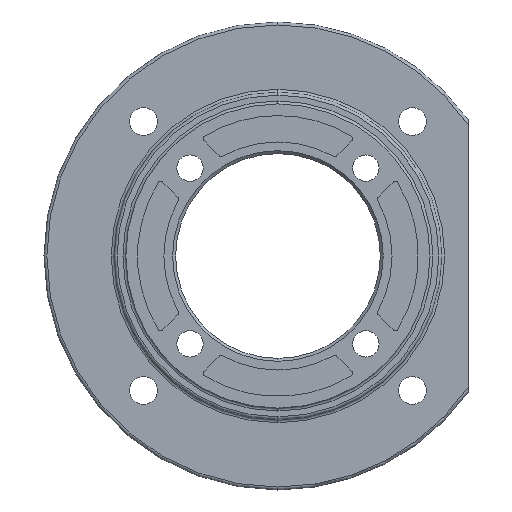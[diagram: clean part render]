
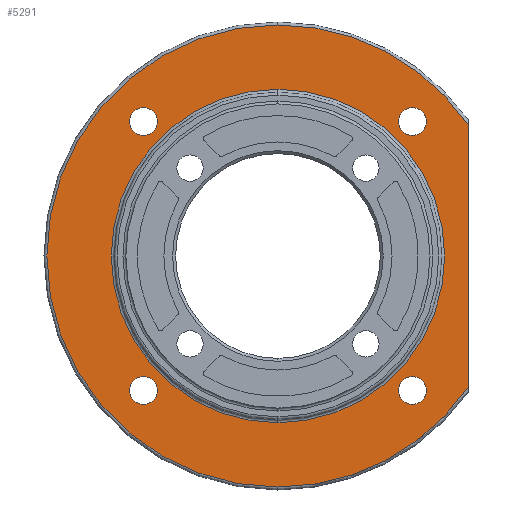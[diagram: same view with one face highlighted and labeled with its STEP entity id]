
A CAD part, left-side view. The second image highlights one B-rep face of the part: STEP entity #5291.
In plain terms, the highlighted planar face has unit normal (-1, 0, 0).
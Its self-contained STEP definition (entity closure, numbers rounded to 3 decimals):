
#105 = CARTESIAN_POINT ( 'NONE',  ( 34., 45.962, -45.962 ) ) ;
#112 = DIRECTION ( 'NONE',  ( 1., 0., 0. ) ) ;
#113 = DIRECTION ( 'NONE',  ( 0., 0., -1. ) ) ;
#253 = CARTESIAN_POINT ( 'NONE',  ( 34., 45.962, 50.712 ) ) ;
#254 = CARTESIAN_POINT ( 'NONE',  ( 34., 45.962, 41.212 ) ) ;
#257 = CARTESIAN_POINT ( 'NONE',  ( 34., -45.962, 50.712 ) ) ;
#258 = CARTESIAN_POINT ( 'NONE',  ( 34., -45.962, 41.212 ) ) ;
#261 = CARTESIAN_POINT ( 'NONE',  ( 34., -45.962, -41.212 ) ) ;
#262 = CARTESIAN_POINT ( 'NONE',  ( 34., -45.962, -50.712 ) ) ;
#265 = CARTESIAN_POINT ( 'NONE',  ( 34., 45.962, -41.212 ) ) ;
#266 = CARTESIAN_POINT ( 'NONE',  ( 34., 45.962, -50.712 ) ) ;
#651 = EDGE_CURVE ( 'NONE', #3821, #3822, #5593, .T. ) ;
#856 = PLANE ( 'NONE',  #1895 ) ;
#857 = CARTESIAN_POINT ( 'NONE',  ( 34., 57., 0. ) ) ;
#858 = DIRECTION ( 'NONE',  ( 1., 0., 0. ) ) ;
#859 = DIRECTION ( 'NONE',  ( 0., 0., -1. ) ) ;
#959 = AXIS2_PLACEMENT_3D ( 'NONE', #2167, #2169, #2171 ) ;
#967 = AXIS2_PLACEMENT_3D ( 'NONE', #2179, #2193, #2195 ) ;
#972 = AXIS2_PLACEMENT_3D ( 'NONE', #2203, #2217, #2219 ) ;
#1659 = AXIS2_PLACEMENT_3D ( 'NONE', #4197, #4198, #4199 ) ;
#1661 = AXIS2_PLACEMENT_3D ( 'NONE', #4203, #4204, #4205 ) ;
#1667 = AXIS2_PLACEMENT_3D ( 'NONE', #4224, #4225, #4226 ) ;
#1890 = FACE_BOUND ( 'NONE', #5061, .T. ) ;
#1894 = FACE_BOUND ( 'NONE', #5062, .T. ) ;
#1895 = AXIS2_PLACEMENT_3D ( 'NONE', #857, #858, #859 ) ;
#1896 = FACE_BOUND ( 'NONE', #5063, .T. ) ;
#1898 = FACE_BOUND ( 'NONE', #5064, .T. ) ;
#1900 = FACE_BOUND ( 'NONE', #5065, .T. ) ;
#1901 = FACE_OUTER_BOUND ( 'NONE', #5066, .T. ) ;
#2167 = CARTESIAN_POINT ( 'NONE',  ( 34., -45.962, 45.962 ) ) ;
#2169 = DIRECTION ( 'NONE',  ( 1., 0., 0. ) ) ;
#2171 = DIRECTION ( 'NONE',  ( 0., 0., -1. ) ) ;
#2179 = CARTESIAN_POINT ( 'NONE',  ( 34., -45.962, -45.962 ) ) ;
#2193 = DIRECTION ( 'NONE',  ( 1., 0., 0. ) ) ;
#2195 = DIRECTION ( 'NONE',  ( 0., 0., -1. ) ) ;
#2203 = CARTESIAN_POINT ( 'NONE',  ( 34., 45.962, 45.962 ) ) ;
#2217 = DIRECTION ( 'NONE',  ( 1., 0., 0. ) ) ;
#2219 = DIRECTION ( 'NONE',  ( 0., 0., -1. ) ) ;
#2825 = AXIS2_PLACEMENT_3D ( 'NONE', #105, #112, #113 ) ;
#2840 = AXIS2_PLACEMENT_3D ( 'NONE', #4661, #4662, #4663 ) ;
#2855 = AXIS2_PLACEMENT_3D ( 'NONE', #4646, #4647, #4648 ) ;
#2856 = AXIS2_PLACEMENT_3D ( 'NONE', #4649, #4650, #4651 ) ;
#2857 = AXIS2_PLACEMENT_3D ( 'NONE', #4652, #4653, #4654 ) ;
#2858 = AXIS2_PLACEMENT_3D ( 'NONE', #4655, #4656, #4657 ) ;
#2859 = AXIS2_PLACEMENT_3D ( 'NONE', #4658, #4659, #4660 ) ;
#2862 = VECTOR ( 'NONE', #4667, 1000. ) ;
#3648 = ORIENTED_EDGE ( 'NONE', *, *, #5201, .T. ) ;
#3649 = ORIENTED_EDGE ( 'NONE', *, *, #5200, .T. ) ;
#3650 = ORIENTED_EDGE ( 'NONE', *, *, #5202, .T. ) ;
#3651 = ORIENTED_EDGE ( 'NONE', *, *, #5442, .T. ) ;
#3652 = ORIENTED_EDGE ( 'NONE', *, *, #5203, .T. ) ;
#3653 = ORIENTED_EDGE ( 'NONE', *, *, #5434, .T. ) ;
#3654 = ORIENTED_EDGE ( 'NONE', *, *, #5199, .F. ) ;
#3655 = ORIENTED_EDGE ( 'NONE', *, *, #5438, .T. ) ;
#3656 = ORIENTED_EDGE ( 'NONE', *, *, #651, .T. ) ;
#3657 = ORIENTED_EDGE ( 'NONE', *, *, #5372, .F. ) ;
#3658 = ORIENTED_EDGE ( 'NONE', *, *, #5368, .T. ) ;
#3659 = ORIENTED_EDGE ( 'NONE', *, *, #5366, .T. ) ;
#3660 = ORIENTED_EDGE ( 'NONE', *, *, #5204, .T. ) ;
#3662 = ORIENTED_EDGE ( 'NONE', *, *, #5205, .T. ) ;
#3809 = VERTEX_POINT ( 'NONE', #253 ) ;
#3810 = VERTEX_POINT ( 'NONE', #254 ) ;
#3813 = VERTEX_POINT ( 'NONE', #257 ) ;
#3814 = VERTEX_POINT ( 'NONE', #258 ) ;
#3817 = VERTEX_POINT ( 'NONE', #261 ) ;
#3818 = VERTEX_POINT ( 'NONE', #262 ) ;
#3821 = VERTEX_POINT ( 'NONE', #265 ) ;
#3822 = VERTEX_POINT ( 'NONE', #266 ) ;
#3849 = VERTEX_POINT ( 'NONE', #4444 ) ;
#3850 = VERTEX_POINT ( 'NONE', #4445 ) ;
#3851 = VERTEX_POINT ( 'NONE', #4446 ) ;
#3854 = VERTEX_POINT ( 'NONE', #4449 ) ;
#3855 = VERTEX_POINT ( 'NONE', #4450 ) ;
#3866 = VERTEX_POINT ( 'NONE', #4461 ) ;
#4197 = CARTESIAN_POINT ( 'NONE',  ( 34., 0., 0. ) ) ;
#4198 = DIRECTION ( 'NONE',  ( -1., 0., 0. ) ) ;
#4199 = DIRECTION ( 'NONE',  ( 0., 0., 1. ) ) ;
#4203 = CARTESIAN_POINT ( 'NONE',  ( 34., 0., 0. ) ) ;
#4204 = DIRECTION ( 'NONE',  ( -1., 0., 0. ) ) ;
#4205 = DIRECTION ( 'NONE',  ( 0., 0., 1. ) ) ;
#4224 = CARTESIAN_POINT ( 'NONE',  ( 34., 0., 0. ) ) ;
#4225 = DIRECTION ( 'NONE',  ( -1., 0., 0. ) ) ;
#4226 = DIRECTION ( 'NONE',  ( 0., 0., 1. ) ) ;
#4444 = CARTESIAN_POINT ( 'NONE',  ( 34., 0., -79. ) ) ;
#4445 = CARTESIAN_POINT ( 'NONE',  ( 34., 0., 79. ) ) ;
#4446 = CARTESIAN_POINT ( 'NONE',  ( 34., -65., 44.9 ) ) ;
#4449 = CARTESIAN_POINT ( 'NONE',  ( 34., 0., -57. ) ) ;
#4450 = CARTESIAN_POINT ( 'NONE',  ( 34., 0., 57. ) ) ;
#4461 = CARTESIAN_POINT ( 'NONE',  ( 34., -65., -44.9 ) ) ;
#4646 = CARTESIAN_POINT ( 'NONE',  ( 34., 0., 0. ) ) ;
#4647 = DIRECTION ( 'NONE',  ( -1., 0., 0. ) ) ;
#4648 = DIRECTION ( 'NONE',  ( 0., 0., 1. ) ) ;
#4649 = CARTESIAN_POINT ( 'NONE',  ( 34., 45.962, 45.962 ) ) ;
#4650 = DIRECTION ( 'NONE',  ( 1., 0., 0. ) ) ;
#4651 = DIRECTION ( 'NONE',  ( 0., 0., -1. ) ) ;
#4652 = CARTESIAN_POINT ( 'NONE',  ( 34., -45.962, 45.962 ) ) ;
#4653 = DIRECTION ( 'NONE',  ( 1., 0., 0. ) ) ;
#4654 = DIRECTION ( 'NONE',  ( 0., 0., -1. ) ) ;
#4655 = CARTESIAN_POINT ( 'NONE',  ( 34., -45.962, -45.962 ) ) ;
#4656 = DIRECTION ( 'NONE',  ( 1., 0., 0. ) ) ;
#4657 = DIRECTION ( 'NONE',  ( 0., 0., -1. ) ) ;
#4658 = CARTESIAN_POINT ( 'NONE',  ( 34., 45.962, -45.962 ) ) ;
#4659 = DIRECTION ( 'NONE',  ( 1., 0., 0. ) ) ;
#4660 = DIRECTION ( 'NONE',  ( 0., 0., -1. ) ) ;
#4661 = CARTESIAN_POINT ( 'NONE',  ( 34., 0., 0. ) ) ;
#4662 = DIRECTION ( 'NONE',  ( -1., 0., 0. ) ) ;
#4663 = DIRECTION ( 'NONE',  ( 0., 0., 1. ) ) ;
#4665 = LINE ( 'NONE', #4666, #2862 ) ;
#4666 = CARTESIAN_POINT ( 'NONE',  ( 34., -65., 59.603 ) ) ;
#4667 = DIRECTION ( 'NONE',  ( 0., 0., 1. ) ) ;
#4783 = CIRCLE ( 'NONE', #1659, 79. ) ;
#4785 = CIRCLE ( 'NONE', #1661, 79. ) ;
#4788 = CIRCLE ( 'NONE', #1667, 57. ) ;
#4818 = CIRCLE ( 'NONE', #959, 4.75 ) ;
#4820 = CIRCLE ( 'NONE', #967, 4.75 ) ;
#4822 = CIRCLE ( 'NONE', #972, 4.75 ) ;
#5061 = EDGE_LOOP ( 'NONE', ( #3649, #3651 ) ) ;
#5062 = EDGE_LOOP ( 'NONE', ( #3648, #3653 ) ) ;
#5063 = EDGE_LOOP ( 'NONE', ( #3650, #3655 ) ) ;
#5064 = EDGE_LOOP ( 'NONE', ( #3652, #3656 ) ) ;
#5065 = EDGE_LOOP ( 'NONE', ( #3654, #3657 ) ) ;
#5066 = EDGE_LOOP ( 'NONE', ( #3658, #3659, #3660, #3662 ) ) ;
#5199 = EDGE_CURVE ( 'NONE', #3855, #3854, #5613, .T. ) ;
#5200 = EDGE_CURVE ( 'NONE', #3810, #3809, #5614, .T. ) ;
#5201 = EDGE_CURVE ( 'NONE', #3814, #3813, #5615, .T. ) ;
#5202 = EDGE_CURVE ( 'NONE', #3818, #3817, #5616, .T. ) ;
#5203 = EDGE_CURVE ( 'NONE', #3822, #3821, #5617, .T. ) ;
#5204 = EDGE_CURVE ( 'NONE', #3849, #3866, #5618, .T. ) ;
#5205 = EDGE_CURVE ( 'NONE', #3866, #3851, #4665, .T. ) ;
#5291 = ADVANCED_FACE ( 'NONE', ( #1890, #1894, #1896, #1898, #1900, #1901 ), #856, .F. ) ;
#5366 = EDGE_CURVE ( 'NONE', #3850, #3849, #4783, .T. ) ;
#5368 = EDGE_CURVE ( 'NONE', #3851, #3850, #4785, .T. ) ;
#5372 = EDGE_CURVE ( 'NONE', #3854, #3855, #4788, .T. ) ;
#5434 = EDGE_CURVE ( 'NONE', #3813, #3814, #4818, .T. ) ;
#5438 = EDGE_CURVE ( 'NONE', #3817, #3818, #4820, .T. ) ;
#5442 = EDGE_CURVE ( 'NONE', #3809, #3810, #4822, .T. ) ;
#5593 = CIRCLE ( 'NONE', #2825, 4.75 ) ;
#5613 = CIRCLE ( 'NONE', #2855, 57. ) ;
#5614 = CIRCLE ( 'NONE', #2856, 4.75 ) ;
#5615 = CIRCLE ( 'NONE', #2857, 4.75 ) ;
#5616 = CIRCLE ( 'NONE', #2858, 4.75 ) ;
#5617 = CIRCLE ( 'NONE', #2859, 4.75 ) ;
#5618 = CIRCLE ( 'NONE', #2840, 79. ) ;
